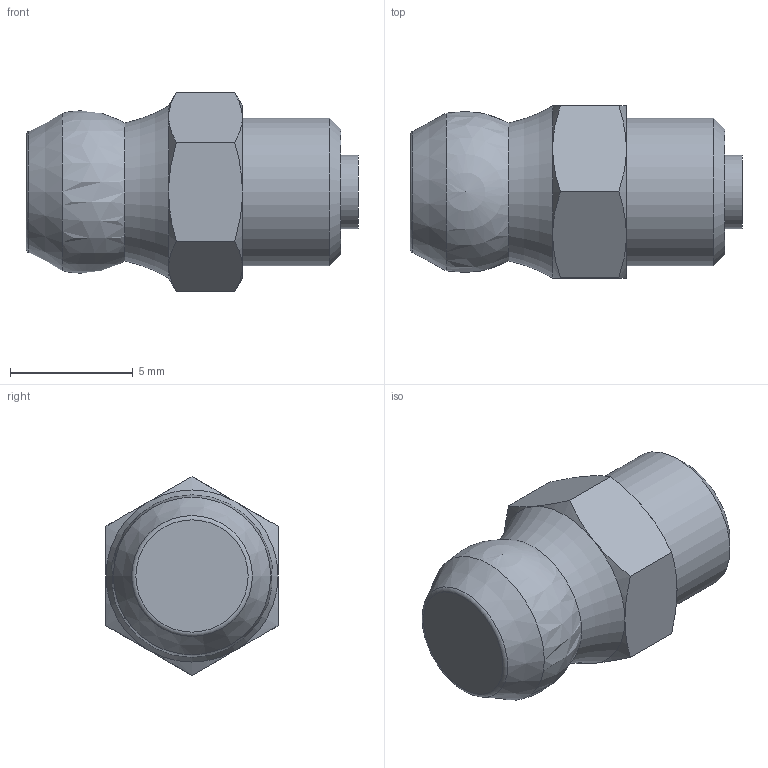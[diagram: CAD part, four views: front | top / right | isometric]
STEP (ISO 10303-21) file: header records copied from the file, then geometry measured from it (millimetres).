
FILE_DESCRIPTION(/* description */ ('윤활 니플, 원추 유형 A'),/* implementation_level */ '2;1');
FILE_NAME(/* name */ '',/* time_stamp */ '2024-11-28T15:30:11+09:00',/* author */ ('jhkim'),/* organization */ (''),/* preprocessor_version */ 'ST-DEVELOPER v20',/* originating_system */ 'Autodesk Inventor 2025',/* authorisation */ '');
FILE_SCHEMA (('AUTOMOTIVE_DESIGN { 1 0 10303 214 3 1 1 }'));
Length unit declared in the file: millimetre
Products named in the file (1): 그리스 니플  M6x0.75
Bounding box: 13.5 x 7 x 8.08 mm (x, y, z)
Volume: 414.1 mm3; surface area: 329.3 mm2
Topology: 1 solids, 1 shells, 29 faces, 66 edges, 40 vertices
Faces by surface type: cone 14, plane 10, cylinder 2, torus 2, sphere 1
Full cylindrical faces by diameter (mm): 3 x1, 6 x1
Entity records: 823 total; most frequent: CARTESIAN_POINT 182, DIRECTION 130, ORIENTED_EDGE 128, EDGE_CURVE 64, AXIS2_PLACEMENT_3D 60, VERTEX_POINT 40, EDGE_LOOP 32, CIRCLE 30
